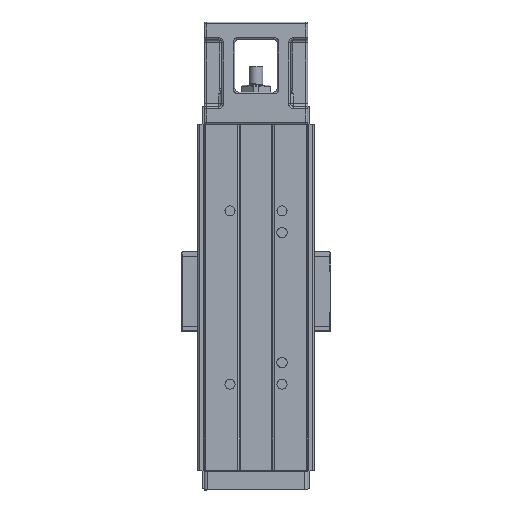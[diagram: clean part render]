
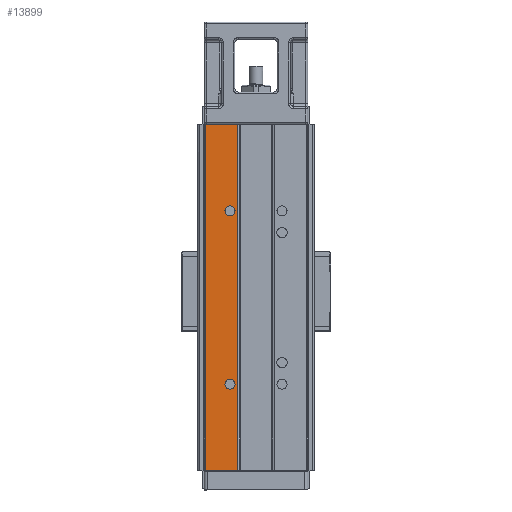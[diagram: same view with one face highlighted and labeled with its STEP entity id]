
A CAD part, front view. The second image highlights one B-rep face of the part: STEP entity #13899.
In plain terms, the highlighted planar face has unit normal (0, -1, 0).
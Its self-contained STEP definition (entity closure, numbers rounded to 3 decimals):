
#291 = CARTESIAN_POINT ( 'NONE',  ( -10.414, 0., 0. ) ) ;
#790 = CARTESIAN_POINT ( 'NONE',  ( -29.086, 0., -200. ) ) ;
#1182 = LINE ( 'NONE', #11903, #46382 ) ;
#1440 = DIRECTION ( 'NONE',  ( 0., 0., 1. ) ) ;
#2657 = VECTOR ( 'NONE', #17815, 1000. ) ;
#4173 = LINE ( 'NONE', #27276, #2657 ) ;
#5772 = PLANE ( 'NONE',  #39916 ) ;
#6176 = DIRECTION ( 'NONE',  ( 0., -1., 0. ) ) ;
#6893 = ORIENTED_EDGE ( 'NONE', *, *, #42287, .T. ) ;
#7803 = FACE_OUTER_BOUND ( 'NONE', #24641, .T. ) ;
#9716 = VECTOR ( 'NONE', #31917, 1000. ) ;
#11101 = DIRECTION ( 'NONE',  ( 0., 1., 0. ) ) ;
#11903 = CARTESIAN_POINT ( 'NONE',  ( -10.414, 0., 0. ) ) ;
#12091 = CARTESIAN_POINT ( 'NONE',  ( -29.086, 0., 0. ) ) ;
#12472 = VERTEX_POINT ( 'NONE', #790 ) ;
#13899 = ADVANCED_FACE ( 'NONE', ( #44715, #33433, #7803 ), #5772, .T. ) ;
#14088 = CARTESIAN_POINT ( 'NONE',  ( -15., 0., -150. ) ) ;
#14950 = VERTEX_POINT ( 'NONE', #291 ) ;
#16013 = EDGE_CURVE ( 'NONE', #35773, #12472, #50375, .T. ) ;
#16020 = ORIENTED_EDGE ( 'NONE', *, *, #33519, .T. ) ;
#16168 = CARTESIAN_POINT ( 'NONE',  ( -15., 0., -50. ) ) ;
#16917 = AXIS2_PLACEMENT_3D ( 'NONE', #14088, #47832, #18944 ) ;
#17815 = DIRECTION ( 'NONE',  ( 1., 0., 0. ) ) ;
#18944 = DIRECTION ( 'NONE',  ( 0., 0., 1. ) ) ;
#19077 = EDGE_CURVE ( 'NONE', #12472, #45071, #4173, .T. ) ;
#21003 = DIRECTION ( 'NONE',  ( 0., 0., 1. ) ) ;
#21993 = CARTESIAN_POINT ( 'NONE',  ( 0., 0., 0. ) ) ;
#22538 = LINE ( 'NONE', #21993, #9716 ) ;
#24338 = AXIS2_PLACEMENT_3D ( 'NONE', #40009, #11101, #44828 ) ;
#24641 = EDGE_LOOP ( 'NONE', ( #46088, #33129, #37299, #45083 ) ) ;
#25314 = CARTESIAN_POINT ( 'NONE',  ( -30., 0., 0. ) ) ;
#26044 = CIRCLE ( 'NONE', #53176, 2.9 ) ;
#26247 = VECTOR ( 'NONE', #45811, 1000. ) ;
#26435 = CARTESIAN_POINT ( 'NONE',  ( -15., 0., -147.1 ) ) ;
#26838 = EDGE_CURVE ( 'NONE', #35063, #40693, #49794, .T. ) ;
#27276 = CARTESIAN_POINT ( 'NONE',  ( 0., 0., -200. ) ) ;
#29865 = EDGE_LOOP ( 'NONE', ( #6893, #42556 ) ) ;
#30249 = DIRECTION ( 'NONE',  ( 0., 1., 0. ) ) ;
#31917 = DIRECTION ( 'NONE',  ( 1., 0., 0. ) ) ;
#32844 = EDGE_CURVE ( 'NONE', #45071, #14950, #1182, .T. ) ;
#33129 = ORIENTED_EDGE ( 'NONE', *, *, #40811, .F. ) ;
#33433 = FACE_BOUND ( 'NONE', #51440, .T. ) ;
#33519 = EDGE_CURVE ( 'NONE', #39892, #58285, #49321, .T. ) ;
#35063 = VERTEX_POINT ( 'NONE', #56675 ) ;
#35773 = VERTEX_POINT ( 'NONE', #38845 ) ;
#37299 = ORIENTED_EDGE ( 'NONE', *, *, #16013, .T. ) ;
#38845 = CARTESIAN_POINT ( 'NONE',  ( -29.086, 0., 0. ) ) ;
#39885 = DIRECTION ( 'NONE',  ( 0., 0., -1. ) ) ;
#39892 = VERTEX_POINT ( 'NONE', #61802 ) ;
#39916 = AXIS2_PLACEMENT_3D ( 'NONE', #25314, #6176, #39885 ) ;
#40009 = CARTESIAN_POINT ( 'NONE',  ( -15., 0., -150. ) ) ;
#40693 = VERTEX_POINT ( 'NONE', #26435 ) ;
#40811 = EDGE_CURVE ( 'NONE', #35773, #14950, #22538, .T. ) ;
#42287 = EDGE_CURVE ( 'NONE', #40693, #35063, #51082, .T. ) ;
#42556 = ORIENTED_EDGE ( 'NONE', *, *, #26838, .T. ) ;
#44715 = FACE_BOUND ( 'NONE', #29865, .T. ) ;
#44828 = DIRECTION ( 'NONE',  ( 0., 0., 1. ) ) ;
#45071 = VERTEX_POINT ( 'NONE', #60141 ) ;
#45081 = ORIENTED_EDGE ( 'NONE', *, *, #59529, .T. ) ;
#45083 = ORIENTED_EDGE ( 'NONE', *, *, #19077, .T. ) ;
#45811 = DIRECTION ( 'NONE',  ( 0., 0., -1. ) ) ;
#46088 = ORIENTED_EDGE ( 'NONE', *, *, #32844, .T. ) ;
#46382 = VECTOR ( 'NONE', #60195, 1000. ) ;
#47832 = DIRECTION ( 'NONE',  ( 0., 1., 0. ) ) ;
#49321 = CIRCLE ( 'NONE', #57279, 2.9 ) ;
#49794 = CIRCLE ( 'NONE', #16917, 2.9 ) ;
#49898 = DIRECTION ( 'NONE',  ( 0., 1., 0. ) ) ;
#50375 = LINE ( 'NONE', #12091, #26247 ) ;
#51082 = CIRCLE ( 'NONE', #24338, 2.9 ) ;
#51440 = EDGE_LOOP ( 'NONE', ( #16020, #45081 ) ) ;
#53176 = AXIS2_PLACEMENT_3D ( 'NONE', #16168, #49898, #21003 ) ;
#55118 = CARTESIAN_POINT ( 'NONE',  ( -15., 0., -52.9 ) ) ;
#56675 = CARTESIAN_POINT ( 'NONE',  ( -15., 0., -152.9 ) ) ;
#57279 = AXIS2_PLACEMENT_3D ( 'NONE', #59154, #30249, #1440 ) ;
#58285 = VERTEX_POINT ( 'NONE', #55118 ) ;
#59154 = CARTESIAN_POINT ( 'NONE',  ( -15., 0., -50. ) ) ;
#59529 = EDGE_CURVE ( 'NONE', #58285, #39892, #26044, .T. ) ;
#60141 = CARTESIAN_POINT ( 'NONE',  ( -10.414, 0., -200. ) ) ;
#60195 = DIRECTION ( 'NONE',  ( 0., 0., 1. ) ) ;
#61802 = CARTESIAN_POINT ( 'NONE',  ( -15., 0., -47.1 ) ) ;
